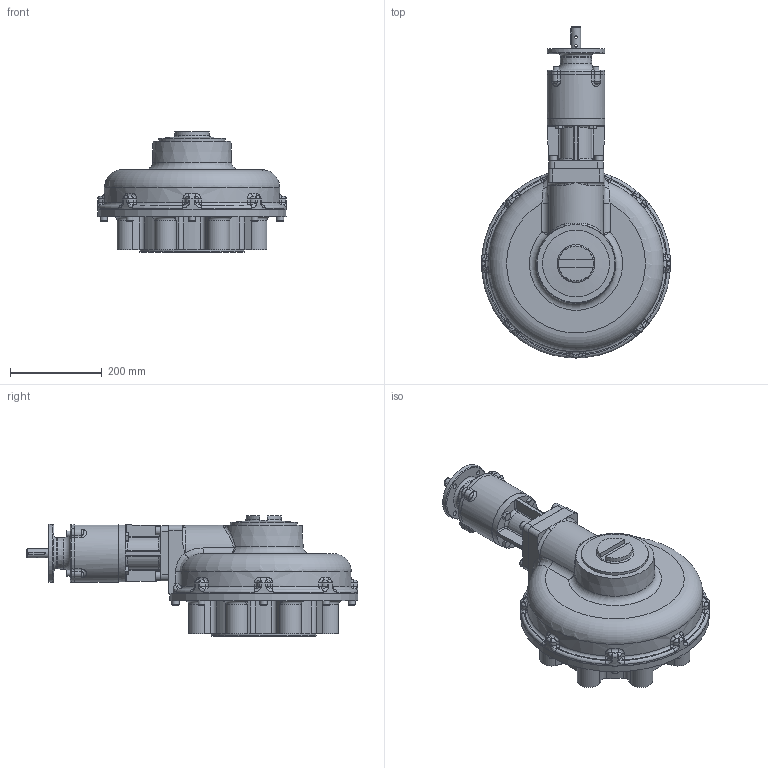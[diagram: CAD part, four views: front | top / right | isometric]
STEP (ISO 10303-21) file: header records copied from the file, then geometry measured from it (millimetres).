
FILE_DESCRIPTION( ( 'Unknown' ), '1' );
FILE_NAME( 'X:/CURRENT/PUB/Hob/HOB-2014/HOB-MPR/HOB-MPR-STP_FILES/PUB-HOB11MPR6-36-E-F30.stp', 'Unknown', ( 'Unknown' ), ( 'Unknown' ), 'PSStep 16.0.42', 'Unknown', ' ' );
FILE_SCHEMA( ( 'AUTOMOTIVE_DESIGN { 1 0 10303 214 1 1 1 1 }' ) );
Length unit declared in the file: millimetre
Products named in the file (31): trelleborg_trea00200-n7mm_b5c67wtxxcj74kwnwb2box077_01; 1; 2; 3; 4; 5; 6; 7; 8; 9; 10; 11; 12; 13; 14; 15; 16; 17; 18; 19; 20; 21; 22; 23; 24; 25; 26; 27; 28; 29; 30
Bounding box: 411.99 x 724.49 x 262.05 mm (x, y, z)
Surface area: 1638225.1 mm2 (no closed solid volume)
Topology: 0 solids, 2727 shells, 2727 faces, 13613 edges, 13139 vertices
Faces by surface type: cylinder 943, plane 805, cone 376, torus 312, bspline 231, sphere 60
Full cylindrical faces by diameter (mm): 6 x2, 6.647 x8, 8 x4, 8.376 x8, 8.5 x12, 10 x12, 10.2 x4, 10.5 x16, 12 x4, 12.5 x4, 13.27 x4, 16 x8, 17.294 x16, 18 x4, 19 x1, 20 x4, 22.098 x1, 23 x1, 25 x1, 29 x1, 29.583 x1, 30 x3, 50.2 x2, 55.11 x1, 58 x1, 66.675 x1, 70 x1, 70.05 x1, 70.5 x1, 75 x1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
Entity records: 228289 total; most frequent: CARTESIAN_POINT 107307, DIRECTION 21750, VERTEX_POINT 13006, ORIENTED_EDGE 12974, EDGE_CURVE 12974, AXIS2_PLACEMENT_3D 8367, CIRCLE 5812, LINE 5016
